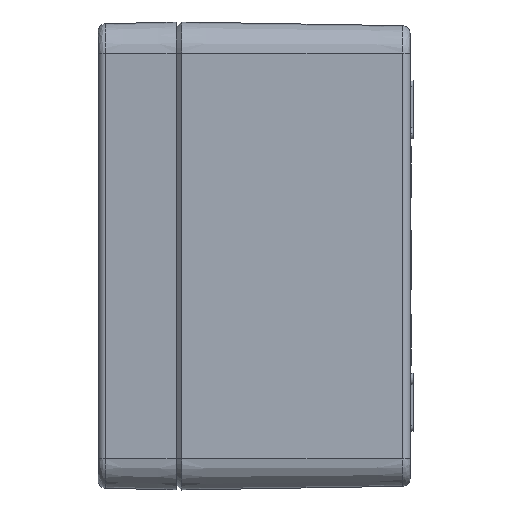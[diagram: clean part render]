
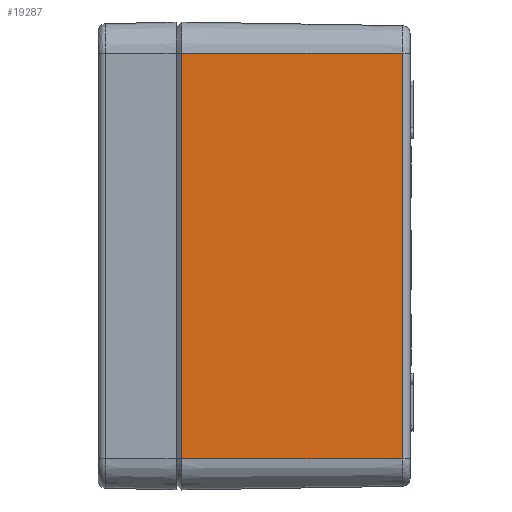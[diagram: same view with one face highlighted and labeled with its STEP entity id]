
A CAD part, left-side view. The second image highlights one B-rep face of the part: STEP entity #19287.
In plain terms, the highlighted planar face has unit normal (-1, -0.017, 0).
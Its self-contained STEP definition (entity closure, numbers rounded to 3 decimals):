
#93 = DIRECTION ( 'NONE',  ( 0., 0., -1. ) ) ;
#401 = AXIS2_PLACEMENT_3D ( 'NONE', #20099, #32888, #37428 ) ;
#784 = CARTESIAN_POINT ( 'NONE',  ( -110.025, 0., 52.025 ) ) ;
#2543 = EDGE_LOOP ( 'NONE', ( #24781, #22716, #44212, #28750 ) ) ;
#3155 = VERTEX_POINT ( 'NONE', #54610 ) ;
#5021 = VERTEX_POINT ( 'NONE', #15065 ) ;
#6536 = CARTESIAN_POINT ( 'NONE',  ( -110.002, -1.4, -52.025 ) ) ;
#7622 = LINE ( 'NONE', #42291, #54517 ) ;
#9745 = DIRECTION ( 'NONE',  ( 0.017, -1., 0. ) ) ;
#15065 = CARTESIAN_POINT ( 'NONE',  ( -110.002, -1.4, 52.025 ) ) ;
#15960 = VECTOR ( 'NONE', #53312, 1000. ) ;
#16133 = EDGE_CURVE ( 'NONE', #22157, #37110, #44122, .T. ) ;
#19287 = ADVANCED_FACE ( 'NONE', ( #49370 ), #49653, .T. ) ;
#20099 = CARTESIAN_POINT ( 'NONE',  ( -110.025, 0., 52.025 ) ) ;
#22157 = VERTEX_POINT ( 'NONE', #6536 ) ;
#22716 = ORIENTED_EDGE ( 'NONE', *, *, #35859, .F. ) ;
#24781 = ORIENTED_EDGE ( 'NONE', *, *, #16133, .T. ) ;
#28750 = ORIENTED_EDGE ( 'NONE', *, *, #38684, .T. ) ;
#31159 = LINE ( 'NONE', #784, #15960 ) ;
#32888 = DIRECTION ( 'NONE',  ( -1., -0.017, 0. ) ) ;
#33760 = DIRECTION ( 'NONE',  ( 0., 0., -1. ) ) ;
#35292 = LINE ( 'NONE', #47533, #43761 ) ;
#35859 = EDGE_CURVE ( 'NONE', #3155, #37110, #7622, .T. ) ;
#37110 = VERTEX_POINT ( 'NONE', #50471 ) ;
#37428 = DIRECTION ( 'NONE',  ( 0.017, -1., 0. ) ) ;
#38684 = EDGE_CURVE ( 'NONE', #5021, #22157, #35292, .T. ) ;
#42291 = CARTESIAN_POINT ( 'NONE',  ( -109.058, -58.033, 52.025 ) ) ;
#43761 = VECTOR ( 'NONE', #93, 1000. ) ;
#44122 = LINE ( 'NONE', #48389, #49706 ) ;
#44212 = ORIENTED_EDGE ( 'NONE', *, *, #46213, .T. ) ;
#46213 = EDGE_CURVE ( 'NONE', #3155, #5021, #31159, .T. ) ;
#47533 = CARTESIAN_POINT ( 'NONE',  ( -110.002, -1.4, 52.025 ) ) ;
#48389 = CARTESIAN_POINT ( 'NONE',  ( -110.025, 0., -52.025 ) ) ;
#49370 = FACE_OUTER_BOUND ( 'NONE', #2543, .T. ) ;
#49653 = PLANE ( 'NONE',  #401 ) ;
#49706 = VECTOR ( 'NONE', #9745, 1000. ) ;
#50471 = CARTESIAN_POINT ( 'NONE',  ( -109.058, -58.033, -52.025 ) ) ;
#53312 = DIRECTION ( 'NONE',  ( -0.017, 1., 0. ) ) ;
#54517 = VECTOR ( 'NONE', #33760, 1000. ) ;
#54610 = CARTESIAN_POINT ( 'NONE',  ( -109.058, -58.033, 52.025 ) ) ;
